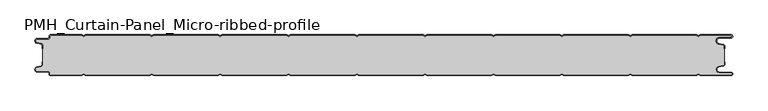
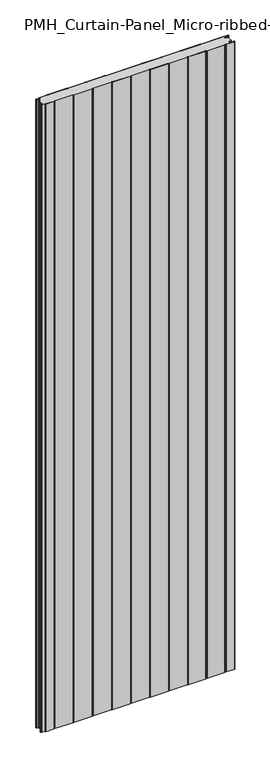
"""IFC4 building model written with IfcOpenShell, lengths in millimetres: plate geometry, PMH_Curtain-Panel_Micro-ribbed-profile : ACH_PMH_Stone-wool-Panel_60M."""

from ifc_helpers import new_model, si_unit, point, frame_2d, origin, origin_with_axes, place, context, project, spatial, polyline, circle_curve, trimmed, segment, composite_curve, outline, extrude, source, transform, mapped, element, save


def pmh_curtain_panel_micro_ribbed_profile_801c5321(model_context):
    return source(origin(), model_context, "Body", "SweptSolid", [
        extrude(outline(composite_curve([segment(trimmed(circle_curve(frame_2d((-502.0, -15.878557)), 2.0), [point((-500.0, -15.878557))], [point((-501.5500978, -13.9298169))], True, "CARTESIAN"), True, "CONTINUOUS"), segment(polyline([(-501.5500978, -13.9298169), (-507.7098239, -12.507732)]), True, "CONTINUOUS"), segment(trimmed(circle_curve(frame_2d((-506.9, -9.0)), 3.6), [point((-507.7098239, -12.507732))], [point((-506.9, -5.4))], False, "CARTESIAN"), True, "CONTINUOUS"), segment(polyline([(-506.9, -5.4), (-491.4, -5.4)]), True, "CONTINUOUS"), segment(trimmed(circle_curve(frame_2d((-491.4, -3.4)), 2.0), [point((-491.4, -5.4))], [point((-489.4, -3.4))], True, "CARTESIAN"), True, "CONTINUOUS"), segment(polyline([(-489.4, -3.4), (-489.4, -2.0)]), True, "CONTINUOUS"), segment(trimmed(circle_curve(frame_2d((-487.4, -2.0)), 2.0), [point((-489.4, -2.0))], [point((-487.4, 0.0))], False, "CARTESIAN"), True, "CONTINUOUS"), segment(polyline([(-487.4, 0.0), (-442.0999995, 0.0), (-439.4, -1.5588455), (-436.7000005, 0.0), (-342.0999995, 0.0), (-339.4, -1.5588455), (-336.7000005, 0.0), (-242.0999995, 0.0), (-239.4, -1.5588455), (-236.7000005, 0.0), (-142.0999995, 0.0), (-139.4, -1.5588455), (-136.7000005, 0.0), (-42.0999995, 0.0), (-39.4, -1.5588455), (-36.7000005, 0.0), (57.9000005, 0.0), (60.6, -1.5588455), (63.2999995, 0.0), (157.9000005, 0.0), (160.6, -1.5588455), (163.2999995, 0.0), (257.9000005, 0.0), (260.6, -1.5588455), (263.2999995, 0.0), (357.9000005, 0.0), (360.6, -1.5588455), (363.2999995, 0.0), (457.9000005, 0.0), (460.6, -1.5588455), (463.2999995, 0.0), (508.1, 0.0)]), True, "CONTINUOUS"), segment(trimmed(circle_curve(frame_2d((508.1, -2.5)), 2.5), [point((508.1, 0.0))], [point((508.1, -5.0))], False, "CARTESIAN"), True, "CONTINUOUS"), segment(polyline([(508.1, -5.0), (491.1, -5.0)]), True, "CONTINUOUS"), segment(trimmed(circle_curve(frame_2d((491.1, -9.0)), 4.0), [point((491.1, -5.0))], [point((490.405407, -12.939231))], True, "CARTESIAN"), True, "CONTINUOUS"), segment(polyline([(490.405407, -12.939231), (496.8514855, -14.0758491)]), True, "CONTINUOUS"), segment(trimmed(circle_curve(frame_2d((496.4, -16.6363492)), 2.6), [point((496.8514855, -14.0758491))], [point((499.0, -16.6363492))], False, "CARTESIAN"), True, "CONTINUOUS"), segment(polyline([(499.0, -16.6363492), (499.0, -20.0), (498.2, -20.0), (498.2, -16.6363492)]), True, "CONTINUOUS"), segment(trimmed(circle_curve(frame_2d((496.4, -16.6363492)), 1.8), [point((498.2, -16.6363492))], [point((496.7125669, -14.8636953))], True, "CARTESIAN"), True, "CONTINUOUS"), segment(polyline([(496.7125669, -14.8636953), (490.2664884, -13.7270772)]), True, "CONTINUOUS"), segment(trimmed(circle_curve(frame_2d((491.1, -9.0)), 4.8), [point((490.2664884, -13.7270772))], [point((491.1, -4.2))], False, "CARTESIAN"), True, "CONTINUOUS"), segment(polyline([(491.1, -4.2), (508.1, -4.2)]), True, "CONTINUOUS"), segment(trimmed(circle_curve(frame_2d((508.1, -2.5)), 1.7), [point((508.1, -4.2))], [point((508.1, -0.8))], True, "CARTESIAN"), True, "CONTINUOUS"), segment(polyline([(508.1, -0.8), (463.5143588, -0.8), (460.6, -2.482606), (457.6856412, -0.8), (363.5143588, -0.8), (360.6, -2.482606), (357.6856412, -0.8), (263.5143588, -0.8), (260.6, -2.482606), (257.6856412, -0.8), (163.5143588, -0.8), (160.6, -2.482606), (157.6856412, -0.8), (63.5143588, -0.8), (60.6, -2.482606), (57.6856412, -0.8), (-36.4856412, -0.8), (-39.4, -2.482606), (-42.3143588, -0.8), (-136.4856412, -0.8), (-139.4, -2.482606), (-142.3143588, -0.8), (-236.4856412, -0.8), (-239.4, -2.482606), (-242.3143588, -0.8), (-336.4856412, -0.8), (-339.4, -2.482606), (-342.3143588, -0.8), (-436.4856412, -0.8), (-439.4, -2.482606), (-442.3143588, -0.8), (-487.4, -0.8)]), True, "CONTINUOUS"), segment(trimmed(circle_curve(frame_2d((-487.4, -2.0)), 1.2), [point((-487.4, -0.8))], [point((-488.6, -2.0))], True, "CARTESIAN"), True, "CONTINUOUS"), segment(polyline([(-488.6, -2.0), (-488.6, -3.4)]), True, "CONTINUOUS"), segment(trimmed(circle_curve(frame_2d((-491.4, -3.4)), 2.8), [point((-488.6, -3.4))], [point((-491.4, -6.2))], False, "CARTESIAN"), True, "CONTINUOUS"), segment(polyline([(-491.4, -6.2), (-506.9, -6.2)]), True, "CONTINUOUS"), segment(trimmed(circle_curve(frame_2d((-506.9, -9.0)), 2.8), [point((-506.9, -6.2))], [point((-507.529863, -11.7282362))], True, "CARTESIAN"), True, "CONTINUOUS"), segment(polyline([(-507.529863, -11.7282362), (-501.370137, -13.150321)]), True, "CONTINUOUS"), segment(trimmed(circle_curve(frame_2d((-502.0, -15.878557)), 2.8), [point((-501.370137, -13.150321))], [point((-499.2, -15.878557))], False, "CARTESIAN"), True, "CONTINUOUS"), segment(polyline([(-499.2, -15.878557), (-499.2, -20.0), (-500.0, -20.0), (-500.0, -15.878557)]), True, "CONTINUOUS")], self_intersect=False)), origin_with_axes(), (0.0, 0.0, 1.0), 3500.0),
        extrude(outline(composite_curve([segment(polyline([(-499.2, -44.1214426), (-499.2, -15.8785573)]), True, "CONTINUOUS"), segment(trimmed(circle_curve(frame_2d((-502.0, -15.8785573)), 2.8), [point((-499.2, -15.8785573))], [point((-501.370137, -13.1503212))], True, "CARTESIAN"), True, "CONTINUOUS"), segment(polyline([(-501.370137, -13.1503212), (-507.5298631, -11.7282362)]), True, "CONTINUOUS"), segment(trimmed(circle_curve(frame_2d((-506.9, -9.0)), 2.8), [point((-507.5298631, -11.7282362))], [point((-506.9, -6.2))], False, "CARTESIAN"), True, "CONTINUOUS"), segment(polyline([(-506.9, -6.2), (-491.4000001, -6.2)]), True, "CONTINUOUS"), segment(trimmed(circle_curve(frame_2d((-491.4000001, -3.4)), 2.8), [point((-491.4000001, -6.2))], [point((-488.6000001, -3.4))], True, "CARTESIAN"), True, "CONTINUOUS"), segment(polyline([(-488.6000001, -3.4), (-488.6000001, -2.0)]), True, "CONTINUOUS"), segment(trimmed(circle_curve(frame_2d((-487.4000001, -2.0)), 1.2), [point((-488.6000001, -2.0))], [point((-487.4000001, -0.8))], False, "CARTESIAN"), True, "CONTINUOUS"), segment(polyline([(-487.4000001, -0.8), (-442.3143589, -0.8), (-439.4000001, -2.482606), (-436.4856412, -0.8), (-342.3143589, -0.8), (-339.4000001, -2.482606), (-336.4856412, -0.8), (-242.3143589, -0.8), (-239.4000001, -2.482606), (-236.4856412, -0.8), (-142.3143589, -0.8), (-139.4000001, -2.482606), (-136.4856412, -0.8), (-42.3143589, -0.8), (-39.4000001, -2.482606), (-36.4856412, -0.8), (57.6856411, -0.8), (60.5999999, -2.482606), (63.5143588, -0.8), (157.6856411, -0.8), (160.5999999, -2.482606), (163.5143588, -0.8), (257.6856411, -0.8), (260.5999999, -2.482606), (263.5143588, -0.8), (357.6856411, -0.8), (360.5999999, -2.482606), (363.5143588, -0.8), (457.6856411, -0.8), (460.5999999, -2.482606), (463.5143588, -0.8), (508.0999999, -0.8)]), True, "CONTINUOUS"), segment(trimmed(circle_curve(frame_2d((508.0999999, -2.5)), 1.7), [point((508.0999999, -0.8))], [point((508.0999999, -4.2))], False, "CARTESIAN"), True, "CONTINUOUS"), segment(polyline([(508.0999999, -4.2), (491.0999999, -4.2)]), True, "CONTINUOUS"), segment(trimmed(circle_curve(frame_2d((491.0999999, -9.0)), 4.8), [point((491.0999999, -4.2))], [point((490.2664883, -13.7270771))], True, "CARTESIAN"), True, "CONTINUOUS"), segment(polyline([(490.2664883, -13.7270771), (496.7125668, -14.8636953)]), True, "CONTINUOUS"), segment(trimmed(circle_curve(frame_2d((496.3999999, -16.6363492)), 1.8), [point((496.7125668, -14.8636953))], [point((498.1999999, -16.6363492))], False, "CARTESIAN"), True, "CONTINUOUS"), segment(polyline([(498.1999999, -16.6363492), (498.1999999, -43.3636508)]), True, "CONTINUOUS"), segment(trimmed(circle_curve(frame_2d((496.3999999, -43.3636508)), 1.8), [point((498.1999999, -43.3636508))], [point((496.7125668, -45.1363047))], False, "CARTESIAN"), True, "CONTINUOUS"), segment(polyline([(496.7125668, -45.1363047), (490.2664883, -46.2729229)]), True, "CONTINUOUS"), segment(trimmed(circle_curve(frame_2d((491.0999999, -51.0)), 4.8), [point((490.2664883, -46.2729229))], [point((491.0999999, -55.8))], True, "CARTESIAN"), True, "CONTINUOUS"), segment(polyline([(491.0999999, -55.8), (508.0999999, -55.8)]), True, "CONTINUOUS"), segment(trimmed(circle_curve(frame_2d((508.0999999, -57.5)), 1.7), [point((508.0999999, -55.8))], [point((508.0999999, -59.2))], False, "CARTESIAN"), True, "CONTINUOUS"), segment(polyline([(508.0999999, -59.2), (463.5143588, -59.2), (460.5999999, -57.517394), (457.6856411, -59.2), (363.5143588, -59.2), (360.5999999, -57.517394), (357.6856411, -59.2), (263.5143588, -59.2), (260.5999999, -57.517394), (257.6856411, -59.2), (163.5143588, -59.2), (160.5999999, -57.517394), (157.6856411, -59.2), (63.5143588, -59.2), (60.5999999, -57.517394), (57.6856411, -59.2), (-36.4856412, -59.2), (-39.4000001, -57.517394), (-42.3143589, -59.2), (-136.4856412, -59.2), (-139.4000001, -57.517394), (-142.3143589, -59.2), (-236.4856412, -59.2), (-239.4000001, -57.517394), (-242.3143589, -59.2), (-336.4856412, -59.2), (-339.4000001, -57.517394), (-342.3143589, -59.2), (-436.4856412, -59.2), (-439.4000001, -57.517394), (-442.3143589, -59.2), (-487.4000001, -59.2)]), True, "CONTINUOUS"), segment(trimmed(circle_curve(frame_2d((-487.4000001, -58.0)), 1.2), [point((-487.4000001, -59.2))], [point((-488.6000001, -58.0))], False, "CARTESIAN"), True, "CONTINUOUS"), segment(polyline([(-488.6000001, -58.0), (-488.6000001, -56.6)]), True, "CONTINUOUS"), segment(trimmed(circle_curve(frame_2d((-491.4000001, -56.6)), 2.8), [point((-488.6000001, -56.6))], [point((-491.4000001, -53.8))], True, "CARTESIAN"), True, "CONTINUOUS"), segment(polyline([(-491.4000001, -53.8), (-506.9, -53.8)]), True, "CONTINUOUS"), segment(trimmed(circle_curve(frame_2d((-506.9, -51.0)), 2.8), [point((-506.9, -53.8))], [point((-507.5298631, -48.2717638))], False, "CARTESIAN"), True, "CONTINUOUS"), segment(polyline([(-507.5298631, -48.2717638), (-501.370137, -46.8496788)]), True, "CONTINUOUS"), segment(trimmed(circle_curve(frame_2d((-502.0, -44.1214426)), 2.8), [point((-501.370137, -46.8496788))], [point((-499.2, -44.1214426))], True, "CARTESIAN"), True, "CONTINUOUS")], self_intersect=False)), origin_with_axes(), (0.0, 0.0, 1.0), 3500.0),
        extrude(outline(composite_curve([segment(polyline([(-500.0, -44.121443), (-500.0, -40.0), (-499.2, -40.0), (-499.2, -44.121443)]), True, "CONTINUOUS"), segment(trimmed(circle_curve(frame_2d((-502.0, -44.121443)), 2.8), [point((-499.2, -44.121443))], [point((-501.370137, -46.8496792))], False, "CARTESIAN"), True, "CONTINUOUS"), segment(polyline([(-501.370137, -46.8496792), (-507.529863, -48.271764)]), True, "CONTINUOUS"), segment(trimmed(circle_curve(frame_2d((-506.9, -51.0)), 2.8), [point((-507.529863, -48.271764))], [point((-506.9, -53.8))], True, "CARTESIAN"), True, "CONTINUOUS"), segment(polyline([(-506.9, -53.8), (-491.4, -53.8)]), True, "CONTINUOUS"), segment(trimmed(circle_curve(frame_2d((-491.4, -56.6)), 2.8), [point((-491.4, -53.8))], [point((-488.6, -56.6))], False, "CARTESIAN"), True, "CONTINUOUS"), segment(polyline([(-488.6, -56.6), (-488.6, -58.0)]), True, "CONTINUOUS"), segment(trimmed(circle_curve(frame_2d((-487.4, -58.0)), 1.2), [point((-488.6, -58.0))], [point((-487.4, -59.2))], True, "CARTESIAN"), True, "CONTINUOUS"), segment(polyline([(-487.4, -59.2), (-442.3143588, -59.2), (-439.4, -57.517394), (-436.4856412, -59.2), (-342.3143588, -59.2), (-339.4, -57.517394), (-336.4856412, -59.2), (-242.3143588, -59.2), (-239.4, -57.517394), (-236.4856412, -59.2), (-142.3143588, -59.2), (-139.4, -57.517394), (-136.4856412, -59.2), (-42.3143588, -59.2), (-39.4, -57.517394), (-36.4856412, -59.2), (57.6856412, -59.2), (60.6, -57.517394), (63.5143588, -59.2), (157.6856412, -59.2), (160.6, -57.517394), (163.5143588, -59.2), (257.6856412, -59.2), (260.6, -57.517394), (263.5143588, -59.2), (357.6856412, -59.2), (360.6, -57.517394), (363.5143588, -59.2), (457.6856412, -59.2), (460.6, -57.517394), (463.5143588, -59.2), (508.1, -59.2)]), True, "CONTINUOUS"), segment(trimmed(circle_curve(frame_2d((508.1, -57.5)), 1.7), [point((508.1, -59.2))], [point((508.1, -55.8))], True, "CARTESIAN"), True, "CONTINUOUS"), segment(polyline([(508.1, -55.8), (491.1, -55.8)]), True, "CONTINUOUS"), segment(trimmed(circle_curve(frame_2d((491.1, -51.0)), 4.8), [point((491.1, -55.8))], [point((490.2664884, -46.2729229))], False, "CARTESIAN"), True, "CONTINUOUS"), segment(polyline([(490.2664884, -46.2729229), (496.7125669, -45.1363047)]), True, "CONTINUOUS"), segment(trimmed(circle_curve(frame_2d((496.4, -43.3636508)), 1.8), [point((496.7125669, -45.1363047))], [point((498.2, -43.3636508))], True, "CARTESIAN"), True, "CONTINUOUS"), segment(polyline([(498.2, -43.3636508), (498.2, -40.0), (499.0, -40.0), (499.0, -43.3636508)]), True, "CONTINUOUS"), segment(trimmed(circle_curve(frame_2d((496.4, -43.3636508)), 2.6), [point((499.0, -43.3636508))], [point((496.8514855, -45.9241509))], False, "CARTESIAN"), True, "CONTINUOUS"), segment(polyline([(496.8514855, -45.9241509), (490.405407, -47.060769)]), True, "CONTINUOUS"), segment(trimmed(circle_curve(frame_2d((491.1, -51.0)), 4.0), [point((490.405407, -47.060769))], [point((491.1, -55.0))], True, "CARTESIAN"), True, "CONTINUOUS"), segment(polyline([(491.1, -55.0), (508.1, -55.0)]), True, "CONTINUOUS"), segment(trimmed(circle_curve(frame_2d((508.1, -57.5)), 2.5), [point((508.1, -55.0))], [point((508.1, -60.0))], False, "CARTESIAN"), True, "CONTINUOUS"), segment(polyline([(508.1, -60.0), (463.2999995, -60.0), (460.6, -58.4411545), (457.9000005, -60.0), (363.2999995, -60.0), (360.6, -58.4411545), (357.9000005, -60.0), (263.2999995, -60.0), (260.6, -58.4411545), (257.9000005, -60.0), (163.2999995, -60.0), (160.6, -58.4411545), (157.9000005, -60.0), (63.2999995, -60.0), (60.6, -58.4411545), (57.9000005, -60.0), (-36.7000005, -60.0), (-39.4, -58.4411545), (-42.0999995, -60.0), (-136.7000005, -60.0), (-139.4, -58.4411545), (-142.0999995, -60.0), (-236.7000005, -60.0), (-239.4, -58.4411545), (-242.0999995, -60.0), (-336.7000005, -60.0), (-339.4, -58.4411545), (-342.0999995, -60.0), (-436.7000005, -60.0), (-439.4, -58.4411545), (-442.0999995, -60.0), (-487.4, -60.0)]), True, "CONTINUOUS"), segment(trimmed(circle_curve(frame_2d((-487.4, -58.0)), 2.0), [point((-487.4, -60.0))], [point((-489.4, -58.0))], False, "CARTESIAN"), True, "CONTINUOUS"), segment(polyline([(-489.4, -58.0), (-489.4, -56.6)]), True, "CONTINUOUS"), segment(trimmed(circle_curve(frame_2d((-491.4, -56.6)), 2.0), [point((-489.4, -56.6))], [point((-491.4, -54.6))], True, "CARTESIAN"), True, "CONTINUOUS"), segment(polyline([(-491.4, -54.6), (-506.9, -54.6)]), True, "CONTINUOUS"), segment(trimmed(circle_curve(frame_2d((-506.9, -51.0)), 3.6), [point((-506.9, -54.6))], [point((-507.7098239, -47.4922678))], False, "CARTESIAN"), True, "CONTINUOUS"), segment(polyline([(-507.7098239, -47.4922678), (-501.5500979, -46.070183)]), True, "CONTINUOUS"), segment(trimmed(circle_curve(frame_2d((-502.0, -44.121443)), 2.0), [point((-501.5500979, -46.070183))], [point((-500.0, -44.121443))], True, "CARTESIAN"), True, "CONTINUOUS")], self_intersect=False)), origin_with_axes(), (0.0, 0.0, 1.0), 3500.0),
    ])


if __name__ == "__main__":
    model = new_model("IFC4")
    model_context = context("Model", 3, world=origin())
    ifc_project = project(units=[si_unit("LENGTHUNIT", "METRE", prefix="MILLI")], contexts=[model_context])
    site = spatial("IfcSite", under=ifc_project)
    building = spatial("IfcBuilding", under=site)
    placement = place(None, origin())
    pmh_curtain_panel_micro_ribbed_profile_shape = pmh_curtain_panel_micro_ribbed_profile_801c5321(model_context)
    element("IfcPlate", 1, ObjectType="PMH_Curtain-Panel_Micro-ribbed-profile : ACH_PMH_Stone-wool-Panel_60M", at=placement, inside=building, context=model_context, shape_type="MappedRepresentation", body=[
        mapped(pmh_curtain_panel_micro_ribbed_profile_shape, transform((0.0, 0.0, 0.0), x_axis=(1.0, 0.0, 0.0), y_axis=(0.0, 1.0, 0.0), z_axis=(0.0, 0.0, 1.0))),
    ])
    save(model, "model.ifc")
